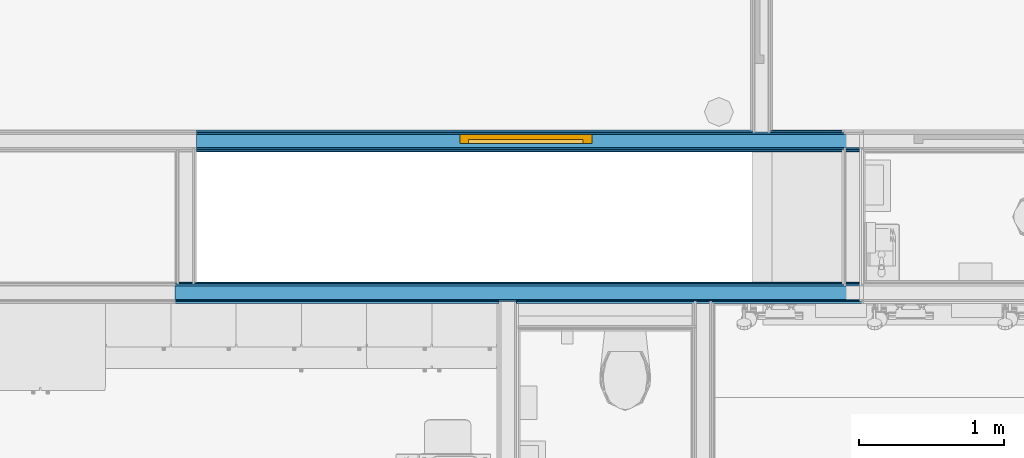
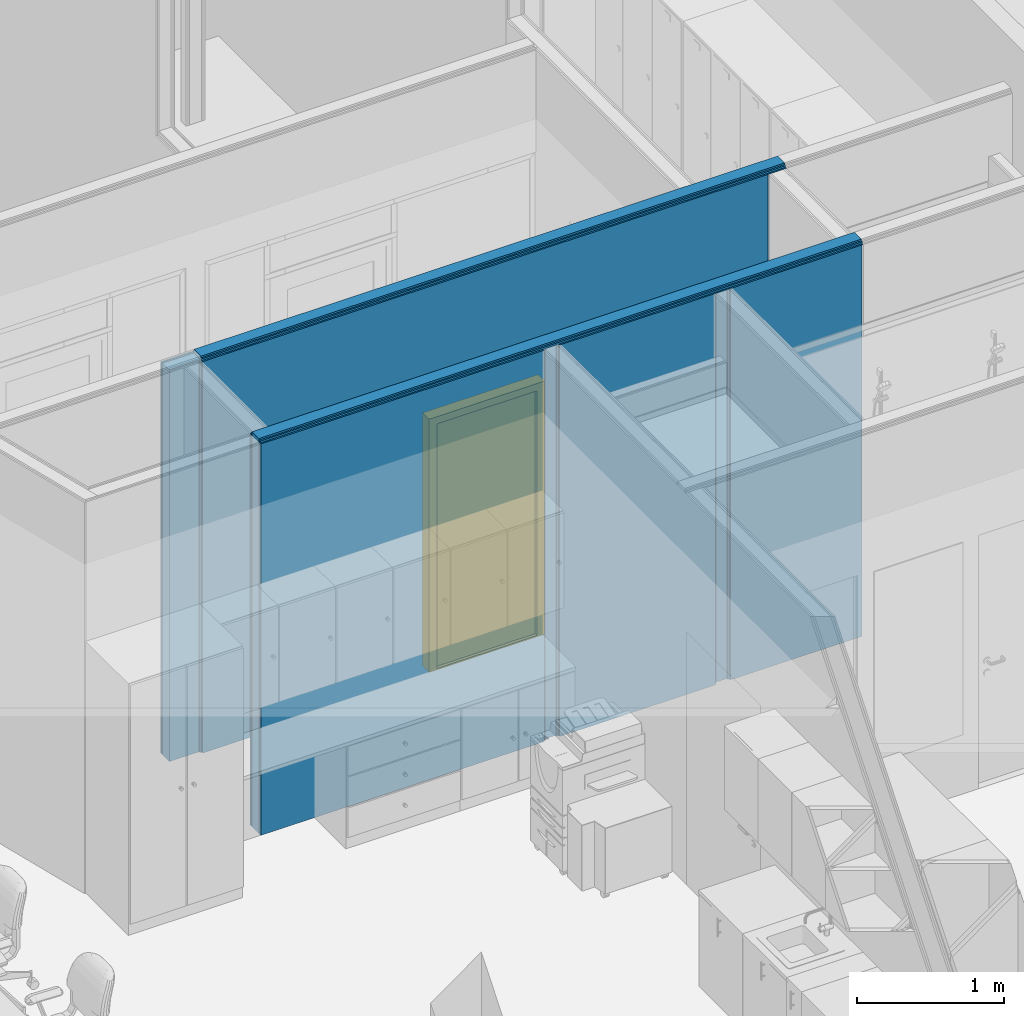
# One storey, part 81 of 153: 10 building element parts, 1 door, 1 opening, 2 elements without a shape of their own.
"""IFC2X3 building model written with IfcOpenShell, lengths in millimetres."""

from ifc_helpers import new_model, entity, si_unit, converted_unit, derived_unit, money_unit, direction, frame, origin_with_axes, place, context, subcontext, project, spatial, faceted_brep, material, type_object, element, fill, aggregate, save


model = new_model("IFC2X3")

# Units and contexts
model_context = context("Model", 3, precision=0.01, world=origin_with_axes(), true_north=direction((0.0, 1.0)))
body_context = subcontext(model_context, "Body", "Model", "MODEL_VIEW")
ifc_project = project(units=[si_unit("LENGTHUNIT", "METRE", prefix="MILLI"), si_unit("AREAUNIT", "SQUARE_METRE"), si_unit("VOLUMEUNIT", "CUBIC_METRE"), converted_unit("PLANEANGLEUNIT", "DEGREE", entity("IfcPlaneAngleMeasure", 0.0174532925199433), si_unit("PLANEANGLEUNIT", "RADIAN"), dimensions=[0, 0, 0, 0, 0, 0, 0]), money_unit("EUR"), converted_unit("TIMEUNIT", "Year", entity("IfcTimeMeasure", 31557600.0), si_unit("TIMEUNIT", "SECOND"), dimensions=[0, 0, 1, 0, 0, 0, 0]), si_unit("MASSUNIT", "GRAM", prefix="KILO"), si_unit("THERMODYNAMICTEMPERATUREUNIT", "DEGREE_CELSIUS"), si_unit("LUMINOUSINTENSITYUNIT", "LUMEN"), si_unit("ENERGYUNIT", "JOULE", prefix="MEGA"), derived_unit("THERMALCONDUCTANCEUNIT", [(si_unit("POWERUNIT", "WATT"), 1), (si_unit("LENGTHUNIT", "METRE"), -1), (si_unit("THERMODYNAMICTEMPERATUREUNIT", "KELVIN"), -1)]), derived_unit("SPECIFICHEATCAPACITYUNIT", [(si_unit("ENERGYUNIT", "JOULE"), 1), (si_unit("MASSUNIT", "GRAM", prefix="KILO"), -1), (si_unit("THERMODYNAMICTEMPERATUREUNIT", "KELVIN"), -1)]), derived_unit("MASSDENSITYUNIT", [(si_unit("MASSUNIT", "GRAM", prefix="KILO"), 1), (si_unit("VOLUMEUNIT", "CUBIC_METRE"), -1)])], contexts=[model_context])

# Site, building, storey
site_placement = place(None, frame((0.0, 0.0, 8650.0), z_axis=(0.0, 0.0, 1.0), x_axis=(1.0, 0.0, 0.0)))
site = spatial("IfcSite", under=ifc_project, at=site_placement, Name="43301:001:0844", CompositionType="ELEMENT")
building_placement = place(site_placement, origin_with_axes())
building = spatial("IfcBuilding", under=site, at=building_placement, Name="Kuressaare Ametikooli tuulikute mehaanikute õppekorpus", CompositionType="ELEMENT")
storey_placement = place(building_placement, frame((0.0, 0.0, 4100.0), z_axis=(0.0, 0.0, 1.0), x_axis=(1.0, 0.0, 0.0)))
storey = spatial("IfcBuildingStorey", under=building, at=storey_placement, Name="2.korrus", CompositionType="ELEMENT", Elevation=4100.0)

# Door
door_style = type_object("IfcDoorStyle", Name="Door 27", ConstructionType="NOTDEFINED", OperationType="SINGLE_SWING_RIGHT", ParameterTakesPrecedence=False, Sizeable=False)
wall_2_placement = place(storey_placement, frame((126644.3242705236, 21634.06892395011, 0.0), z_axis=(0.0, 0.0, 1.0), x_axis=(1.0, 0.0, 0.0)))
opening_placement = place(wall_2_placement, frame((2272.088682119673, 0.0, 0.0), z_axis=(0.0, 0.0, 1.0), x_axis=(1.0, 0.0, 0.0)))
door_placement = place(opening_placement, frame((-455.0000000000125, 0.0, 0.0), z_axis=(0.0, 0.0, 1.0), x_axis=(1.0, 0.0, 0.0)))
door = element("IfcDoor", 1, at=door_placement, inside=storey, type_object=door_style, Name="PU9v,EI30", OverallHeight=2110.0, OverallWidth=910.0, context=body_context, shape_type="Brep", body=[
    faceted_brep([(862.0000000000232, -65.00000000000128, 0.0), (862.0000000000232, -65.00000000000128, 11.99999999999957), (850.0000000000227, -65.00000000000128, 11.99999999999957), (850.0000000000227, -65.00000000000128, 0.0), (48.00000000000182, -65.00000000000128, 0.0), (48.00000000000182, -65.00000000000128, 11.99999999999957), (60.00000000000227, -65.00000000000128, 11.99999999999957), (60.00000000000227, -89.99999999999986, 11.99999999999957), (850.0000000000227, -89.99999999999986, 11.99999999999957), (850.0000000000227, -89.99999999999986, 0.0), (60.00000000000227, -89.99999999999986, 0.0), (60.00000000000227, -65.00000000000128, 0.0)], [[[0, 1, 2, 3]], [[4, 5, 1, 0]], [[1, 5, 6, 7, 8, 2]], [[3, 2, 8, 9]], [[0, 3, 9, 10, 11, 4]], [[11, 6, 5, 4]], [[10, 7, 6, 11]], [[9, 8, 7, 10]]]),
    faceted_brep([(60.00000000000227, -65.00000000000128, 0.0), (60.00000000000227, -65.00000000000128, 2050.000000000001), (60.00000000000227, -89.99999999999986, 2050.000000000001), (60.00000000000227, -89.99999999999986, 0.0), (48.00000000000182, -65.00000000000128, 2050.000000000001), (48.00000000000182, -65.00000000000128, 0.0), (48.00000000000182, 0.0, 2050.000000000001), (0.0, 0.0, 2050.000000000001), (0.0, -89.99999999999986, 2050.000000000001), (0.0, -89.99999999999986, 0.0), (0.0, 0.0, 0.0), (48.00000000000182, 0.0, 0.0)], [[[0, 1, 2, 3]], [[4, 1, 0, 5]], [[4, 6, 7, 8, 2, 1]], [[3, 2, 8, 9]], [[5, 0, 3, 9, 10, 11]], [[6, 4, 5, 11]], [[6, 11, 10, 7]], [[10, 9, 8, 7]]]),
    faceted_brep([(862.0000000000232, -65.00000000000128, 2050.000000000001), (850.0000000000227, -65.00000000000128, 2050.000000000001), (850.0000000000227, -89.99999999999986, 2050.000000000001), (910.000000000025, -89.99999999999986, 2050.000000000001), (910.000000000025, 0.0, 2050.000000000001), (862.0000000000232, 0.0, 2050.000000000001), (862.0000000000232, -65.00000000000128, 0.0), (850.0000000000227, -65.00000000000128, 0.0), (850.0000000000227, -89.99999999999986, 0.0), (910.000000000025, -89.99999999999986, 0.0), (910.000000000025, 0.0, 0.0), (862.0000000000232, 0.0, 0.0)], [[[0, 1, 2, 3, 4, 5]], [[1, 0, 6, 7]], [[1, 7, 8, 2]], [[3, 2, 8, 9]], [[4, 3, 9, 10]], [[11, 5, 4, 10]], [[0, 5, 11, 6]], [[6, 11, 10, 9, 8, 7]]]),
    faceted_brep([(48.00000000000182, 0.0, 2062.0), (48.00000000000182, 0.0, 2050.000000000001), (0.0, 0.0, 2050.000000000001), (0.0, 0.0, 2110.0), (910.000000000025, 0.0, 2110.0), (910.000000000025, 0.0, 2050.000000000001), (862.0000000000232, 0.0, 2050.000000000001), (862.0000000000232, 0.0, 2062.0), (48.00000000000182, -65.00000000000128, 2062.0), (48.00000000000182, -65.00000000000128, 2050.000000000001), (60.00000000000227, -65.00000000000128, 2050.000000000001), (60.00000000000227, -89.99999999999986, 2050.000000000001), (0.0, -89.99999999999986, 2050.000000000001), (0.0, -89.99999999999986, 2110.0), (910.000000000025, -89.99999999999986, 2110.0), (910.000000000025, -89.99999999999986, 2050.000000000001), (862.0000000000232, -65.00000000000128, 2050.000000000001), (850.0000000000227, -89.99999999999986, 2050.000000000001), (850.0000000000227, -65.00000000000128, 2050.000000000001), (862.0000000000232, -65.00000000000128, 2062.0)], [[[0, 1, 2, 3, 4, 5, 6, 7]], [[1, 0, 8, 9]], [[9, 10, 11, 12, 2, 1]], [[2, 12, 13, 3]], [[3, 13, 14, 4]], [[4, 14, 15, 5]], [[16, 6, 5, 15, 17, 18]], [[7, 6, 16, 19]], [[0, 7, 19, 8]], [[16, 18, 10, 9, 8, 19]], [[10, 18, 17, 11]], [[17, 15, 14, 13, 12, 11]]]),
    faceted_brep([(862.0000000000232, 0.0, 0.0), (862.0000000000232, -65.00000000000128, 0.0), (48.00000000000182, -65.00000000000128, 0.0), (48.00000000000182, 0.0, 0.0), (862.0000000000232, 0.0, 2062.0), (862.0000000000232, -65.00000000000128, 2062.0), (48.00000000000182, -65.00000000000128, 2062.0), (48.00000000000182, 0.0, 2062.0)], [[[0, 1, 2, 3]], [[4, 5, 1, 0]], [[1, 5, 6, 2]], [[3, 2, 6, 7]], [[0, 3, 7, 4]], [[7, 6, 5, 4]]]),
])

# Wall, building element parts
wall_type = type_object("IfcWallType", Name="SS-2.1 147", PredefinedType="NOTDEFINED")
wall_1_placement = place(storey_placement, frame((126497.3242705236, 20587.06892395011, 0.0), z_axis=(0.0, 0.0, 1.0), x_axis=(1.0, 0.0, 0.0)))
wall_1 = element("IfcWall", 2, at=wall_1_placement, inside=storey, type_object=wall_type, Name="Sisesein")
ifc_material_1 = material(Name="Kipsplaat")
building_element_part_1_placement = place(wall_1_placement, origin_with_axes())
building_element_part_1 = element("IfcBuildingElementPart", 3, at=building_element_part_1_placement, material=ifc_material_1, Name="Kipsplaat", context=body_context, shape_type="Brep", body=[
    faceted_brep([(0.0, 0.0, 3260.712739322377), (4747.834924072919, 0.0, 3260.712739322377), (4747.834924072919, 0.0, 3259.999999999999), (4600.834924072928, 0.0, 3259.999999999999), (4600.834924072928, 0.0, 0.0), (134.0000000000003, 0.0, 0.0), (134.0000000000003, 0.0, 3259.999999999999), (13.00000000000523, 0.0, 3259.999999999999), (13.00000000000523, 0.0, 0.0), (0.0, 0.0, 0.0), (4747.834924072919, -12.99999999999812, 3260.712739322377), (0.0, -12.99999999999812, 3260.712739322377), (4747.834924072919, -12.99999999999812, 3259.999999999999), (4600.834924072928, -12.99999999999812, 3259.999999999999), (4600.834924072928, -12.99999999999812, 0.0), (134.0000000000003, -13.00000000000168, 0.0), (134.0000000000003, -12.99999999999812, 3259.999999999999), (13.00000000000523, -12.99999999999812, 3259.999999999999), (13.00000000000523, -13.00000000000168, 0.0), (0.0, -13.00000000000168, 0.0)], [[[0, 1, 2, 3, 4, 5, 6, 7, 8, 9]], [[10, 1, 0, 11]], [[1, 10, 12, 2]], [[2, 12, 13, 3]], [[4, 3, 13, 14]], [[14, 15, 5, 4]], [[16, 6, 5, 15]], [[7, 6, 16, 17]], [[18, 8, 7, 17]], [[9, 8, 18, 19]], [[11, 0, 9, 19]], [[10, 11, 19, 18, 17, 16, 15, 14, 13, 12]]]),
])
ifc_material_2 = material(Name="Soojustus - Mineraalvill pehme")
building_element_part_2_placement = place(wall_1_placement, origin_with_axes())
building_element_part_2 = element("IfcBuildingElementPart", 4, at=building_element_part_2_placement, material=ifc_material_2, Name="Soojustus - Mineraalvill pehme", context=body_context, shape_type="Brep", body=[
    faceted_brep([(4747.834924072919, -120.9999999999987, 3259.999999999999), (4626.834924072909, -120.9999999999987, 3259.999999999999), (4626.834924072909, -25.9999999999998, 3259.999999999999), (4747.834924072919, -25.9999999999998, 3259.999999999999), (4747.834924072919, -120.9999999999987, 3289.999998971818), (0.0, -120.9999999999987, 3289.999999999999), (0.0, -120.9999999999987, 0.0), (4626.834924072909, -120.9999999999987, 0.0), (4626.834924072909, -25.9999999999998, 0.0), (0.0, -25.9999999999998, 0.0), (0.0, -25.9999999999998, 3289.999999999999), (4747.834924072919, -25.9999999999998, 3289.999998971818)], [[[0, 1, 2, 3]], [[1, 0, 4, 5, 6, 7]], [[2, 1, 7, 8]], [[2, 8, 9, 10, 11, 3]], [[0, 3, 11, 4]], [[5, 4, 11, 10]], [[5, 10, 9, 6]], [[8, 7, 6, 9]]]),
])
building_element_part_3_placement = place(wall_1_placement, origin_with_axes())
building_element_part_3 = element("IfcBuildingElementPart", 5, at=building_element_part_3_placement, material=ifc_material_1, Name="Kipsplaat", context=body_context, shape_type="Brep", body=[
    faceted_brep([(0.0, -12.99999999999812, 3275.712739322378), (4747.834924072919, -12.99999999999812, 3275.712739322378), (4747.834924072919, -12.99999999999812, 3259.999999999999), (4613.834924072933, -12.99999999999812, 3259.999999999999), (4613.834924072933, -12.99999999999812, 0.0), (121.0000000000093, -13.00000000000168, 0.0), (121.0000000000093, -12.99999999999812, 3259.999999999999), (26.00000000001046, -12.99999999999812, 3259.999999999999), (26.00000000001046, -13.00000000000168, 0.0), (0.0, -13.00000000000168, 0.0), (4747.834924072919, -25.9999999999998, 3275.712739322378), (0.0, -25.9999999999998, 3275.712739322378), (4747.834924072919, -25.9999999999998, 3259.999999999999), (4613.834924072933, -25.9999999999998, 3259.999999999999), (4613.834924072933, -25.9999999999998, 0.0), (121.0000000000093, -25.9999999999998, 0.0), (121.0000000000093, -25.9999999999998, 3259.999999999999), (26.00000000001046, -25.9999999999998, 3259.999999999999), (26.00000000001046, -25.9999999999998, 0.0), (0.0, -25.9999999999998, 0.0)], [[[0, 1, 2, 3, 4, 5, 6, 7, 8, 9]], [[10, 1, 0, 11]], [[1, 10, 12, 2]], [[2, 12, 13, 3]], [[4, 3, 13, 14]], [[14, 15, 5, 4]], [[16, 6, 5, 15]], [[17, 7, 6, 16]], [[18, 8, 7, 17]], [[9, 8, 18, 19]], [[11, 0, 9, 19]], [[10, 11, 19, 18, 17, 16, 15, 14, 13, 12]]]),
])
building_element_part_4_placement = place(wall_1_placement, origin_with_axes())
building_element_part_4 = element("IfcBuildingElementPart", 6, at=building_element_part_4_placement, material=ifc_material_1, Name="Kipsplaat", context=body_context, shape_type="Brep", body=[
    faceted_brep([(0.0, -120.9999999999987, 3275.712739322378), (4747.834924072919, -120.9999999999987, 3275.712739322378), (4747.834924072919, -120.9999999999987, 3259.999999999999), (4721.834924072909, -120.9999999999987, 3259.999999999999), (4721.834924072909, -120.9999999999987, 0.0), (3688.666524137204, -120.9999999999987, 0.0), (3688.666524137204, -120.9999999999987, 3259.999999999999), (3593.666524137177, -120.9999999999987, 3259.999999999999), (3593.666524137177, -120.9999999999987, 0.0), (2341.666524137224, -120.9999999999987, 0.0), (2341.666524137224, -120.9999999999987, 3260.712739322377), (2246.666524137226, -120.9999999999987, 3260.712739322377), (2246.666524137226, -120.9999999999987, 0.0), (0.0, -120.9999999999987, 0.0), (4747.834924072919, -134.0000000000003, 3275.712739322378), (0.0, -134.0000000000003, 3275.712739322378), (4747.834924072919, -134.0000000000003, 3259.999999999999), (4721.834924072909, -134.0000000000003, 3259.999999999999), (4721.834924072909, -134.0000000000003, 0.0), (3688.666524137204, -134.0000000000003, 0.0), (3688.666524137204, -134.0000000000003, 3259.999999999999), (3593.666524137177, -134.0000000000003, 3259.999999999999), (3593.666524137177, -134.0000000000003, 0.0), (2341.666524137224, -134.0000000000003, 0.0), (2341.666524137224, -134.0000000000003, 3260.712739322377), (2246.666524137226, -134.0000000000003, 3260.712739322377), (2246.666524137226, -134.0000000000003, 0.0), (0.0, -134.0000000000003, 0.0)], [[[0, 1, 2, 3, 4, 5, 6, 7, 8, 9, 10, 11, 12, 13]], [[14, 1, 0, 15]], [[1, 14, 16, 2]], [[2, 16, 17, 3]], [[4, 3, 17, 18]], [[18, 19, 5, 4]], [[20, 6, 5, 19]], [[21, 7, 6, 20]], [[22, 8, 7, 21]], [[9, 8, 22, 23]], [[24, 10, 9, 23]], [[25, 11, 10, 24]], [[26, 12, 11, 25]], [[13, 12, 26, 27]], [[15, 0, 13, 27]], [[14, 15, 27, 26, 25, 24, 23, 22, 21, 20, 19, 18, 17, 16]]]),
])
building_element_part_5_placement = place(wall_1_placement, origin_with_axes())
building_element_part_5 = element("IfcBuildingElementPart", 7, at=building_element_part_5_placement, material=ifc_material_1, Name="Kipsplaat", context=body_context, shape_type="Brep", body=[
    faceted_brep([(0.0, -134.0000000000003, 3260.712739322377), (2233.66652413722, -134.0000000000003, 3260.712739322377), (2233.66652413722, -134.0000000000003, 0.0), (0.0, -134.0000000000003, 0.0), (2233.66652413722, -146.9999999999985, 3260.712739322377), (0.0, -146.9999999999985, 3260.712739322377), (2233.66652413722, -146.9999999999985, 0.0), (0.0, -146.9999999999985, 0.0)], [[[0, 1, 2, 3]], [[4, 1, 0, 5]], [[1, 4, 6, 2]], [[3, 2, 6, 7]], [[5, 0, 3, 7]], [[4, 5, 7, 6]]]),
    faceted_brep([(2354.666524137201, -134.0000000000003, 3260.712739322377), (4747.834924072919, -134.0000000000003, 3260.712739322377), (4747.834924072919, -134.0000000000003, 3259.999999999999), (4734.834924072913, -134.0000000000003, 3259.999999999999), (4734.834924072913, -134.0000000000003, 0.0), (3701.666524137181, -134.0000000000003, 0.0), (3701.666524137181, -134.0000000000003, 3259.999999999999), (3580.6665241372, -134.0000000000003, 3259.999999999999), (3580.6665241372, -134.0000000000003, 0.0), (2354.666524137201, -134.0000000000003, 0.0), (4747.834924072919, -146.9999999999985, 3260.712739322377), (2354.666524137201, -146.9999999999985, 3260.712739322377), (4747.834924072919, -146.9999999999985, 3259.999999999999), (4734.834924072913, -146.9999999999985, 3259.999999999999), (4734.834924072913, -146.9999999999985, 0.0), (3701.666524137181, -146.9999999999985, 0.0), (3701.666524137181, -146.9999999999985, 3259.999999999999), (3580.6665241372, -146.9999999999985, 3259.999999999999), (3580.6665241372, -146.9999999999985, 0.0), (2354.666524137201, -146.9999999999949, 0.0)], [[[0, 1, 2, 3, 4, 5, 6, 7, 8, 9]], [[10, 1, 0, 11]], [[1, 10, 12, 2]], [[13, 3, 2, 12]], [[4, 3, 13, 14]], [[14, 15, 5, 4]], [[16, 6, 5, 15]], [[7, 6, 16, 17]], [[18, 8, 7, 17]], [[9, 8, 18, 19]], [[11, 0, 9, 19]], [[10, 11, 19, 18, 17, 16, 15, 14, 13, 12]]]),
])
aggregate(wall_1, [building_element_part_1, building_element_part_2, building_element_part_3, building_element_part_4, building_element_part_5])

# Wall, opening
wall_2 = element("IfcWall", 8, at=wall_2_placement, inside=storey, type_object=wall_type, Name="Sisesein")
opening = element("IfcOpeningElement", 9, at=opening_placement, cuts=wall_2, Name="PU9v,EI30", context=body_context, shape_type="Brep", body=[
    faceted_brep([(-455.0000000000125, -147.9999999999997, 2110.0), (-455.0000000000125, -147.9999999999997, 0.0), (455.0000000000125, -147.9999999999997, 0.0), (455.0000000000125, -147.9999999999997, 2110.0), (-455.0000000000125, 1.000000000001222, 2110.0), (-455.0000000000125, 1.000000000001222, 0.0), (455.0000000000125, 1.000000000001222, 0.0), (455.0000000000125, 1.000000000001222, 2110.0)], [[[0, 1, 2, 3]], [[4, 5, 1, 0]], [[5, 6, 2, 1]], [[6, 7, 3, 2]], [[7, 4, 0, 3]], [[6, 5, 4, 7]]]),
])

fill(opening, door)

# Building element part
building_element_part_6_placement = place(wall_2_placement, origin_with_axes())
building_element_part_6 = element("IfcBuildingElementPart", 10, at=building_element_part_6_placement, material=ifc_material_1, Name="Kipsplaat", context=body_context, shape_type="Brep", body=[
    faceted_brep([(1817.08868211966, 0.0, 2110.0), (1817.08868211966, 0.0, 0.0), (-246.9999999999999, 0.0, 0.0), (-246.9999999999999, 0.0, 3259.999999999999), (0.0, 0.0, 3259.999999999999), (0.0, 0.0, 3260.712739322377), (3836.74408662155, 0.0, 3260.712739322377), (3836.74408662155, 0.0, 0.0), (2727.088682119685, 0.0, 0.0), (2727.088682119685, 0.0, 2110.0), (1817.08868211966, -12.99999999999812, 2110.0), (1817.08868211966, -12.99999999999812, 0.0), (-246.9999999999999, -13.00000000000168, 0.0), (-246.9999999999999, -12.99999999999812, 3259.999999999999), (0.0, -12.99999999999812, 3259.999999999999), (0.0, -12.99999999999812, 3260.712739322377), (3836.74408662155, -12.99999999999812, 3260.712739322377), (3836.74408662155, -12.99999999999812, 0.0), (2727.088682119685, -12.99999999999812, 0.0), (2727.088682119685, -12.99999999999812, 2110.0)], [[[0, 1, 2, 3, 4, 5, 6, 7, 8, 9]], [[1, 0, 10, 11]], [[1, 11, 12, 2]], [[12, 13, 3, 2]], [[14, 4, 3, 13]], [[5, 4, 14, 15]], [[6, 5, 15, 16]], [[16, 17, 7, 6]], [[18, 8, 7, 17]], [[9, 8, 18, 19]], [[0, 9, 19, 10]], [[19, 18, 17, 16, 15, 14, 13, 12, 11, 10]]]),
    faceted_brep([(3957.744086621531, 0.0, 3260.712739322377), (4600.834924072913, 0.0, 3260.712739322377), (4600.834924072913, 0.0, 3259.999999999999), (4466.834924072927, 0.0, 3259.999999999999), (4453.834924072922, 0.0, 3259.999999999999), (4453.834924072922, 0.0, 0.0), (3957.744086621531, 0.0, 0.0), (4600.834924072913, -12.99999999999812, 3260.712739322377), (3957.744086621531, -12.99999999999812, 3260.712739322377), (4600.834924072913, -12.99999999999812, 3259.999999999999), (4466.834924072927, -12.99999999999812, 3259.999999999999), (4453.834924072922, -12.99999999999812, 3259.999999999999), (4453.834924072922, -13.00000000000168, 0.0), (3957.744086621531, -12.99999999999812, 0.0)], [[[0, 1, 2, 3, 4, 5, 6]], [[7, 1, 0, 8]], [[1, 7, 9, 2]], [[9, 10, 3, 2]], [[11, 4, 3, 10]], [[12, 5, 4, 11]], [[6, 5, 12, 13]], [[8, 0, 6, 13]], [[7, 8, 13, 12, 11, 10, 9]]]),
])

building_element_part_7_placement = place(wall_2_placement, origin_with_axes())
building_element_part_7 = element("IfcBuildingElementPart", 11, at=building_element_part_7_placement, material=ifc_material_1, Name="Kipsplaat", context=body_context, shape_type="Brep", body=[
    faceted_brep([(1817.08868211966, -12.99999999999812, 2110.0), (1817.08868211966, -12.99999999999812, 0.0), (-246.9999999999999, -13.00000000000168, 0.0), (-246.9999999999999, -12.99999999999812, 3259.999999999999), (0.0, -12.99999999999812, 3259.999999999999), (0.0, -12.99999999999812, 3275.712739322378), (4600.834924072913, -13.00000000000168, 3275.712739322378), (4600.834924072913, -13.00000000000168, 3259.999999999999), (4479.834924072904, -13.00000000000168, 3259.999999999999), (4466.834924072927, -13.00000000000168, 3259.999999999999), (4466.834924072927, -13.00000000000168, 0.0), (3944.744086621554, -12.99999999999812, 0.0), (3944.744086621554, -12.99999999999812, 3260.712739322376), (3849.744086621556, -12.99999999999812, 3260.712739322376), (3849.744086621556, -12.99999999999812, 0.0), (2727.088682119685, -12.99999999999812, 0.0), (2727.088682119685, -12.99999999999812, 2110.0), (1817.08868211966, -25.9999999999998, 2110.0), (1817.08868211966, -25.9999999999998, 0.0), (-246.9999999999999, -25.9999999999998, 0.0), (-246.9999999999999, -25.9999999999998, 3259.999999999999), (0.0, -25.9999999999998, 3259.999999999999), (0.0, -25.9999999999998, 3275.712739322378), (4600.834924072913, -25.9999999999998, 3275.712739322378), (4600.834924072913, -25.9999999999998, 3259.999999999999), (4479.834924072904, -25.9999999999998, 3259.999999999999), (4466.834924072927, -25.9999999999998, 3259.999999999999), (4466.834924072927, -25.9999999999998, 0.0), (3944.744086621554, -25.9999999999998, 0.0), (3944.744086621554, -25.9999999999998, 3260.712739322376), (3849.744086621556, -25.9999999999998, 3260.712739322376), (3849.744086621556, -25.9999999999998, 0.0), (2727.088682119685, -25.9999999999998, 0.0), (2727.088682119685, -25.9999999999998, 2110.0)], [[[0, 1, 2, 3, 4, 5, 6, 7, 8, 9, 10, 11, 12, 13, 14, 15, 16]], [[1, 0, 17, 18]], [[1, 18, 19, 2]], [[19, 20, 3, 2]], [[21, 4, 3, 20]], [[5, 4, 21, 22]], [[6, 5, 22, 23]], [[23, 24, 7, 6]], [[25, 8, 7, 24]], [[9, 8, 25, 26]], [[10, 9, 26, 27]], [[10, 27, 28, 11]], [[12, 11, 28, 29]], [[13, 12, 29, 30]], [[14, 13, 30, 31]], [[32, 15, 14, 31]], [[16, 15, 32, 33]], [[0, 16, 33, 17]], [[33, 32, 31, 30, 29, 28, 27, 26, 25, 24, 23, 22, 21, 20, 19, 18, 17]]]),
])

building_element_part_8_placement = place(wall_2_placement, origin_with_axes())
building_element_part_8 = element("IfcBuildingElementPart", 12, at=building_element_part_8_placement, material=ifc_material_2, Name="Soojustus - Mineraalvill pehme", context=body_context, shape_type="Brep", body=[
    faceted_brep([(1817.08868211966, -25.9999999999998, 2110.0), (1817.08868211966, -25.9999999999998, 0.0), (-246.9999999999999, -25.9999999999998, 0.0), (-246.9999999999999, -25.9999999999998, 3259.999999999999), (0.0, -25.9999999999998, 3259.999999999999), (0.0, -25.9999999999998, 3289.999998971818), (4600.834924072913, -25.9999999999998, 3289.999998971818), (4600.834924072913, -25.9999999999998, 3259.999999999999), (4574.834924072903, -25.9999999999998, 3259.999999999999), (4479.834924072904, -25.9999999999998, 3259.999999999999), (4479.834924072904, -25.9999999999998, 0.0), (2727.088682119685, -25.9999999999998, 0.0), (2727.088682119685, -25.9999999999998, 2110.0), (1817.08868211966, -120.9999999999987, 2110.0), (1817.08868211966, -120.9999999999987, 0.0), (-246.9999999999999, -120.9999999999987, 0.0), (-246.9999999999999, -120.9999999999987, 3259.999999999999), (0.0, -120.9999999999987, 3259.999999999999), (0.0, -120.9999999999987, 3289.999998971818), (4600.834924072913, -120.9999999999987, 3289.999998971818), (4600.834924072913, -120.9999999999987, 3259.999999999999), (4574.834924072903, -120.9999999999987, 3259.999999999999), (4479.834924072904, -120.9999999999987, 3259.999999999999), (4479.834924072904, -120.9999999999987, 0.0), (2727.088682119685, -120.9999999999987, 0.0), (2727.088682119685, -120.9999999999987, 2110.0)], [[[0, 1, 2, 3, 4, 5, 6, 7, 8, 9, 10, 11, 12]], [[1, 0, 13, 14]], [[1, 14, 15, 2]], [[16, 3, 2, 15]], [[4, 3, 16, 17]], [[18, 5, 4, 17]], [[19, 6, 5, 18]], [[7, 6, 19, 20]], [[8, 7, 20, 21]], [[8, 21, 22, 9]], [[9, 22, 23, 10]], [[24, 11, 10, 23]], [[12, 11, 24, 25]], [[0, 12, 25, 13]], [[25, 24, 23, 22, 21, 20, 19, 18, 17, 16, 15, 14, 13]]]),
])

building_element_part_9_placement = place(wall_2_placement, origin_with_axes())
building_element_part_9 = element("IfcBuildingElementPart", 13, at=building_element_part_9_placement, material=ifc_material_1, Name="Kipsplaat", context=body_context, shape_type="Brep", body=[
    faceted_brep([(1817.08868211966, -120.9999999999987, 2110.0), (1817.08868211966, -120.9999999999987, 0.0), (-13.00000000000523, -120.9999999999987, 0.0), (-13.00000000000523, -120.9999999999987, 3259.999999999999), (0.0, -120.9999999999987, 3259.999999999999), (0.0, -120.9999999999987, 3275.712739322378), (4600.834924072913, -120.9999999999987, 3275.712739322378), (4600.834924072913, -120.9999999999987, 3259.999999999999), (4587.834924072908, -120.9999999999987, 3259.999999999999), (4466.834924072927, -120.9999999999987, 3259.999999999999), (4466.834924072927, -120.9999999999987, 0.0), (2727.088682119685, -120.9999999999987, 0.0), (2727.088682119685, -120.9999999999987, 2110.0), (1817.08868211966, -134.0000000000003, 2110.0), (1817.08868211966, -134.0000000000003, 0.0), (-13.00000000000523, -134.0000000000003, 0.0), (-13.00000000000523, -134.0000000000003, 3259.999999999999), (0.0, -134.0000000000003, 3259.999999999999), (0.0, -134.0000000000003, 3275.712739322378), (4600.834924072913, -134.0000000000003, 3275.712739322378), (4600.834924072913, -134.0000000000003, 3259.999999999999), (4587.834924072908, -134.0000000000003, 3259.999999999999), (4466.834924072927, -134.0000000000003, 3259.999999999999), (4466.834924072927, -134.0000000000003, 0.0), (2727.088682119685, -134.0000000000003, 0.0), (2727.088682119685, -134.0000000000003, 2110.0)], [[[0, 1, 2, 3, 4, 5, 6, 7, 8, 9, 10, 11, 12]], [[1, 0, 13, 14]], [[1, 14, 15, 2]], [[16, 3, 2, 15]], [[3, 16, 17, 4]], [[5, 4, 17, 18]], [[6, 5, 18, 19]], [[19, 20, 7, 6]], [[21, 8, 7, 20]], [[9, 8, 21, 22]], [[10, 9, 22, 23]], [[24, 11, 10, 23]], [[12, 11, 24, 25]], [[0, 12, 25, 13]], [[25, 24, 23, 22, 21, 20, 19, 18, 17, 16, 15, 14, 13]]]),
])

building_element_part_10_placement = place(wall_2_placement, origin_with_axes())
building_element_part_10 = element("IfcBuildingElementPart", 14, at=building_element_part_10_placement, material=ifc_material_1, Name="Kipsplaat", context=body_context, shape_type="Brep", body=[
    faceted_brep([(1817.08868211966, -134.0000000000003, 2110.0), (1817.08868211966, -134.0000000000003, 0.0), (0.0, -134.0000000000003, 0.0), (0.0, -134.0000000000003, 3259.999999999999), (0.0, -134.0000000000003, 3260.712739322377), (4600.834924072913, -134.0000000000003, 3260.712739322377), (4600.834924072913, -134.0000000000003, 3259.999999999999), (4453.834924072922, -134.0000000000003, 3259.999999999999), (4453.834924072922, -134.0000000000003, 0.0), (2727.088682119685, -134.0000000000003, 0.0), (2727.088682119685, -134.0000000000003, 2110.0), (1817.08868211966, -146.9999999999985, 2110.0), (1817.08868211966, -146.9999999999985, 0.0), (0.0, -146.9999999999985, 0.0), (0.0, -146.9999999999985, 3259.999999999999), (0.0, -146.9999999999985, 3260.712739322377), (4600.834924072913, -146.9999999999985, 3260.712739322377), (4600.834924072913, -146.9999999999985, 3259.999999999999), (4453.834924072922, -146.9999999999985, 3259.999999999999), (4453.834924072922, -146.9999999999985, 0.0), (2727.088682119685, -146.9999999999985, 0.0), (2727.088682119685, -146.9999999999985, 2110.0)], [[[0, 1, 2, 3, 4, 5, 6, 7, 8, 9, 10]], [[1, 0, 11, 12]], [[1, 12, 13, 2]], [[14, 3, 2, 13]], [[4, 3, 14, 15]], [[5, 4, 15, 16]], [[16, 17, 6, 5]], [[7, 6, 17, 18]], [[8, 7, 18, 19]], [[20, 9, 8, 19]], [[10, 9, 20, 21]], [[0, 10, 21, 11]], [[21, 20, 19, 18, 17, 16, 15, 14, 13, 12, 11]]]),
])

aggregate(wall_2, [building_element_part_6, building_element_part_7, building_element_part_8, building_element_part_9, building_element_part_10])

save(model, "model.ifc")
